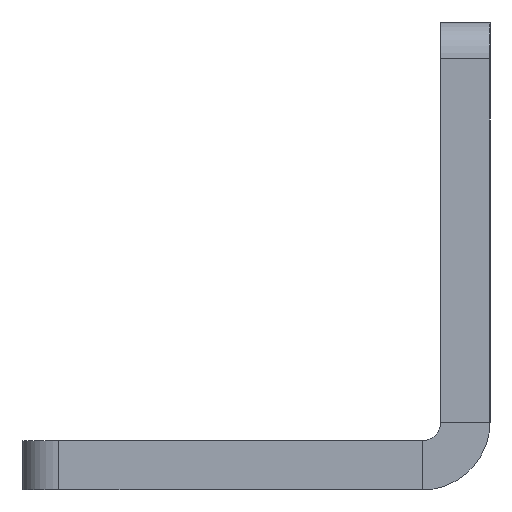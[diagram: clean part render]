
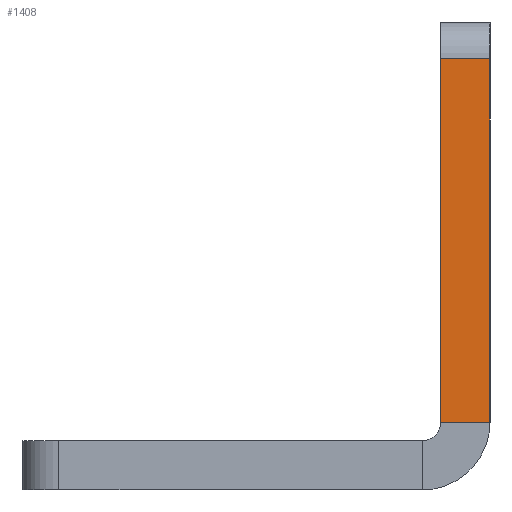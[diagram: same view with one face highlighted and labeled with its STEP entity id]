
A CAD part, left-side view. The second image highlights one B-rep face of the part: STEP entity #1408.
In plain terms, the highlighted planar face has unit normal (-1, 0, 0).
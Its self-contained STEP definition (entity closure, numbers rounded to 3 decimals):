
#133 = ORIENTED_EDGE ( 'NONE', *, *, #1410, .T. ) ;
#156 = DIRECTION ( 'NONE',  ( 0., 1., 0. ) ) ;
#172 = DIRECTION ( 'NONE',  ( 0., 0., -1. ) ) ;
#185 = VERTEX_POINT ( 'NONE', #413 ) ;
#210 = LINE ( 'NONE', #1479, #1240 ) ;
#246 = LINE ( 'NONE', #933, #1094 ) ;
#278 = VERTEX_POINT ( 'NONE', #724 ) ;
#287 = VERTEX_POINT ( 'NONE', #344 ) ;
#311 = EDGE_CURVE ( 'NONE', #185, #278, #1067, .T. ) ;
#320 = DIRECTION ( 'NONE',  ( -1., 0., 0. ) ) ;
#344 = CARTESIAN_POINT ( 'NONE',  ( -16.217, -14.903, 5.5 ) ) ;
#413 = CARTESIAN_POINT ( 'NONE',  ( -16.217, -18.903, 35. ) ) ;
#539 = CARTESIAN_POINT ( 'NONE',  ( -16.217, -14.903, 35. ) ) ;
#571 = CARTESIAN_POINT ( 'NONE',  ( -16.217, -14.903, 38. ) ) ;
#601 = CARTESIAN_POINT ( 'NONE',  ( -16.217, -18.903, 38. ) ) ;
#624 = EDGE_LOOP ( 'NONE', ( #1256, #763, #1229, #133 ) ) ;
#703 = DIRECTION ( 'NONE',  ( 0., 0., -1. ) ) ;
#724 = CARTESIAN_POINT ( 'NONE',  ( -16.217, -18.903, 5.5 ) ) ;
#725 = EDGE_CURVE ( 'NONE', #185, #1178, #1467, .T. ) ;
#727 = VECTOR ( 'NONE', #172, 1000. ) ;
#763 = ORIENTED_EDGE ( 'NONE', *, *, #311, .F. ) ;
#832 = PLANE ( 'NONE',  #1478 ) ;
#932 = DIRECTION ( 'NONE',  ( 0., 1., 0. ) ) ;
#933 = CARTESIAN_POINT ( 'NONE',  ( -16.217, -14.903, 5.5 ) ) ;
#959 = CARTESIAN_POINT ( 'NONE',  ( -16.217, -14.903, 35. ) ) ;
#1067 = LINE ( 'NONE', #601, #727 ) ;
#1094 = VECTOR ( 'NONE', #156, 1000. ) ;
#1125 = VECTOR ( 'NONE', #932, 1000. ) ;
#1178 = VERTEX_POINT ( 'NONE', #959 ) ;
#1220 = DIRECTION ( 'NONE',  ( 0., 0., -1. ) ) ;
#1229 = ORIENTED_EDGE ( 'NONE', *, *, #725, .T. ) ;
#1240 = VECTOR ( 'NONE', #703, 1000. ) ;
#1256 = ORIENTED_EDGE ( 'NONE', *, *, #1288, .F. ) ;
#1288 = EDGE_CURVE ( 'NONE', #278, #287, #246, .T. ) ;
#1408 = ADVANCED_FACE ( 'NONE', ( #1569 ), #832, .T. ) ;
#1410 = EDGE_CURVE ( 'NONE', #1178, #287, #210, .T. ) ;
#1467 = LINE ( 'NONE', #539, #1125 ) ;
#1478 = AXIS2_PLACEMENT_3D ( 'NONE', #571, #320, #1220 ) ;
#1479 = CARTESIAN_POINT ( 'NONE',  ( -16.217, -14.903, 38. ) ) ;
#1569 = FACE_OUTER_BOUND ( 'NONE', #624, .T. ) ;
